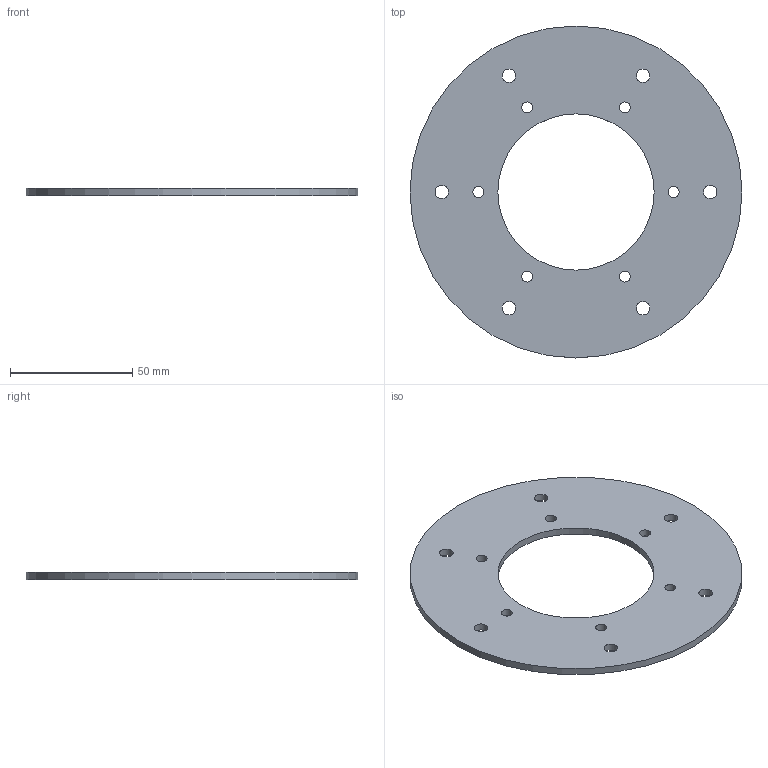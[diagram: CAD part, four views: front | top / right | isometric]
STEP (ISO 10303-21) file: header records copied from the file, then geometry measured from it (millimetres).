
FILE_DESCRIPTION(('Open CASCADE Model'),'2;1');
FILE_NAME('Open CASCADE Shape Model','2026-10-21T13:45:29',('Author'),( 'Open CASCADE'),'Open CASCADE STEP processor 7.9','Open CASCADE 7.9' ,'Unknown');
FILE_SCHEMA(('AUTOMOTIVE_DESIGN { 1 0 10303 214 1 1 1 1 }'));
Length unit declared in the file: millimetre
Products named in the file (1): Open CASCADE STEP translator 7.9 4
Bounding box: 136 x 136 x 3 mm (x, y, z)
Volume: 33215.3 mm3; surface area: 24594 mm2
Topology: 1 solids, 1 shells, 16 faces, 42 edges, 28 vertices
Faces by surface type: cylinder 14, plane 2
Full cylindrical faces by diameter (mm): 4.5 x6, 5.5 x6, 64 x1, 136 x1
Entity records: 1200 total; most frequent: CARTESIAN_POINT 327, DIRECTION 162, ORIENTED_EDGE 84, PCURVE 84, DEFINITIONAL_REPRESENTATION 84, LINE 70, VECTOR 70, AXIS2_PLACEMENT_3D 45
